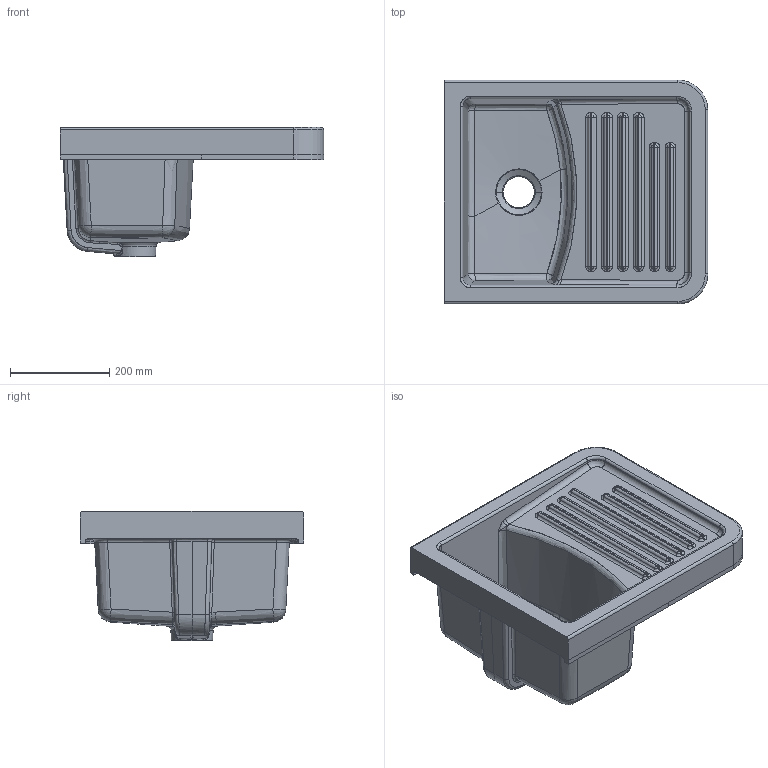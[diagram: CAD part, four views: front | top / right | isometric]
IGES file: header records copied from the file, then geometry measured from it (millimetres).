
Start section: START RECORD GO HERE.
Global section: file name: 2008_Lavatoio MINERVA.igs; native system: DASSAULT SYSTEMES CATIA V5 R19 - www.3ds.com; preprocessor: CATIA Version 5 Release 19 SP 5 ; author: gioge; organization: LAPTOP-G94B6G74; date: 20200622.114245; units: millimetre
Bounding box: 530 x 450 x 260 mm (x, y, z)
Surface area: 1020712.9 mm2 (no closed solid volume)
Topology: 0 solids, 0 shells, 287 faces, 1302 edges, 1277 vertices
Faces by surface type: revolution 165, bspline 92, plane 30
